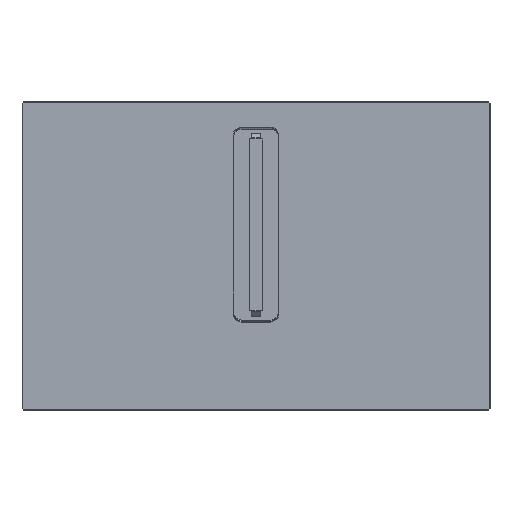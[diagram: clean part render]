
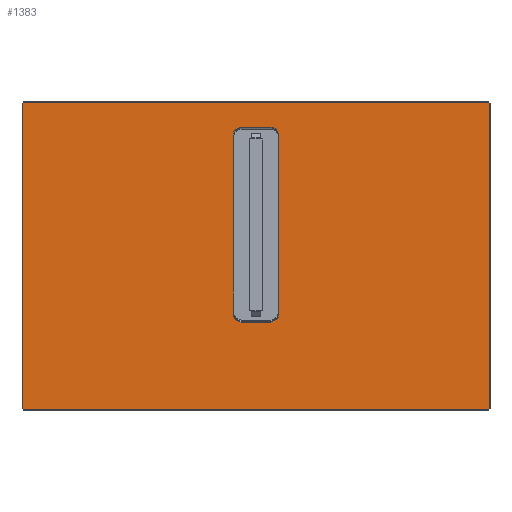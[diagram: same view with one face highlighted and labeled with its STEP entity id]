
A CAD part, top view. The second image highlights one B-rep face of the part: STEP entity #1383.
In plain terms, the highlighted planar face has unit normal (0, 0, 1).
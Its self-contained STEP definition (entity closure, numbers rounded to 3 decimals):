
#23=FACE_BOUND('',#2848,.T.);
#1383=ADVANCED_FACE('',(#2109,#23),#11263,.T.);
#2109=FACE_OUTER_BOUND('',#2847,.T.);
#2847=EDGE_LOOP('',(#5550,#5551,#5552,#5553,#5554,#5555,#5556,#5557));
#2848=EDGE_LOOP('',(#5558,#5559,#5560,#5561,#5562,#5563,#5564,#5565));
#5550=ORIENTED_EDGE('',*,*,#7875,.F.);
#5551=ORIENTED_EDGE('',*,*,#7877,.T.);
#5552=ORIENTED_EDGE('',*,*,#7871,.F.);
#5553=ORIENTED_EDGE('',*,*,#7878,.T.);
#5554=ORIENTED_EDGE('',*,*,#7862,.F.);
#5555=ORIENTED_EDGE('',*,*,#7879,.T.);
#5556=ORIENTED_EDGE('',*,*,#7868,.F.);
#5557=ORIENTED_EDGE('',*,*,#7880,.T.);
#5558=ORIENTED_EDGE('',*,*,#7888,.T.);
#5559=ORIENTED_EDGE('',*,*,#7881,.T.);
#5560=ORIENTED_EDGE('',*,*,#7882,.T.);
#5561=ORIENTED_EDGE('',*,*,#7883,.T.);
#5562=ORIENTED_EDGE('',*,*,#7884,.T.);
#5563=ORIENTED_EDGE('',*,*,#7885,.T.);
#5564=ORIENTED_EDGE('',*,*,#7886,.T.);
#5565=ORIENTED_EDGE('',*,*,#7887,.T.);
#7862=EDGE_CURVE('',#10649,#10650,#9392,.T.);
#7868=EDGE_CURVE('',#10656,#10657,#9396,.T.);
#7871=EDGE_CURVE('',#10653,#10659,#9398,.T.);
#7875=EDGE_CURVE('',#10663,#10661,#9401,.T.);
#7877=EDGE_CURVE('',#10663,#10659,#9403,.T.);
#7878=EDGE_CURVE('',#10653,#10650,#9404,.T.);
#7879=EDGE_CURVE('',#10649,#10657,#9405,.T.);
#7880=EDGE_CURVE('',#10656,#10661,#9406,.T.);
#7881=EDGE_CURVE('',#10664,#10665,#9407,.T.);
#7882=EDGE_CURVE('',#10665,#10666,#9408,.T.);
#7883=EDGE_CURVE('',#10666,#10667,#9409,.T.);
#7884=EDGE_CURVE('',#10667,#10668,#9410,.T.);
#7885=EDGE_CURVE('',#10668,#10669,#9411,.T.);
#7886=EDGE_CURVE('',#10669,#10670,#9412,.T.);
#7887=EDGE_CURVE('',#10670,#10671,#9413,.T.);
#7888=EDGE_CURVE('',#10671,#10664,#9414,.T.);
#9392=B_SPLINE_CURVE_WITH_KNOTS('',1,(#24583,#24584),.UNSPECIFIED.,.F.,
 .F.,(2,2),(0.,757.),.UNSPECIFIED.);
#9396=B_SPLINE_CURVE_WITH_KNOTS('',1,(#24605,#24606),.UNSPECIFIED.,.F.,
 .F.,(2,2),(0.,497.),.UNSPECIFIED.);
#9398=B_SPLINE_CURVE_WITH_KNOTS('',1,(#24614,#24615),.UNSPECIFIED.,.F.,
 .F.,(2,2),(0.,497.),.UNSPECIFIED.);
#9401=B_SPLINE_CURVE_WITH_KNOTS('',1,(#24633,#24634),.UNSPECIFIED.,.F.,
 .F.,(2,2),(0.,757.),.UNSPECIFIED.);
#9403=B_SPLINE_CURVE_WITH_KNOTS('',4,(#24637,#24638,#24639,#24640,#24641),
 .UNSPECIFIED.,.F.,.F.,(5,5),(0.,1.685),.UNSPECIFIED.);
#9404=B_SPLINE_CURVE_WITH_KNOTS('',4,(#24642,#24643,#24644,#24645,#24646),
 .UNSPECIFIED.,.F.,.F.,(5,5),(0.,1.685),.UNSPECIFIED.);
#9405=B_SPLINE_CURVE_WITH_KNOTS('',4,(#24647,#24648,#24649,#24650,#24651),
 .UNSPECIFIED.,.F.,.F.,(5,5),(0.,1.685),.UNSPECIFIED.);
#9406=B_SPLINE_CURVE_WITH_KNOTS('',4,(#24652,#24653,#24654,#24655,#24656),
 .UNSPECIFIED.,.F.,.F.,(5,5),(0.,1.685),.UNSPECIFIED.);
#9407=B_SPLINE_CURVE_WITH_KNOTS('',5,(#24657,#24658,#24659,#24660,#24661,
#24662,#24663,#24664,#24665,#24666,#24667,#24668),.UNSPECIFIED.,.F.,.F.,
(6,3,3,6),(0.,6.315,13.451,20.586),
 .UNSPECIFIED.);
#9408=B_SPLINE_CURVE_WITH_KNOTS('',1,(#24669,#24670),.UNSPECIFIED.,.F.,
 .F.,(2,2),(0.,291.),.UNSPECIFIED.);
#9409=B_SPLINE_CURVE_WITH_KNOTS('',5,(#24671,#24672,#24673,#24674,#24675,
#24676,#24677,#24678,#24679,#24680,#24681,#24682),.UNSPECIFIED.,.F.,.F.,
(6,3,3,6),(0.,6.315,13.451,20.586),
 .UNSPECIFIED.);
#9410=B_SPLINE_CURVE_WITH_KNOTS('',1,(#24683,#24684),.UNSPECIFIED.,.F.,
 .F.,(2,2),(0.,48.),.UNSPECIFIED.);
#9411=B_SPLINE_CURVE_WITH_KNOTS('',5,(#24685,#24686,#24687,#24688,#24689,
#24690,#24691,#24692,#24693,#24694,#24695,#24696),.UNSPECIFIED.,.F.,.F.,
(6,3,3,6),(0.,6.315,13.451,20.586),
 .UNSPECIFIED.);
#9412=B_SPLINE_CURVE_WITH_KNOTS('',1,(#24697,#24698),.UNSPECIFIED.,.F.,
 .F.,(2,2),(0.,291.),.UNSPECIFIED.);
#9413=B_SPLINE_CURVE_WITH_KNOTS('',5,(#24699,#24700,#24701,#24702,#24703,
#24704,#24705,#24706,#24707,#24708,#24709,#24710),.UNSPECIFIED.,.F.,.F.,
(6,3,3,6),(0.,6.315,13.451,20.586),
 .UNSPECIFIED.);
#9414=B_SPLINE_CURVE_WITH_KNOTS('',1,(#24711,#24712),.UNSPECIFIED.,.F.,
 .F.,(2,2),(0.,48.),.UNSPECIFIED.);
#10649=VERTEX_POINT('',#24547);
#10650=VERTEX_POINT('',#24548);
#10653=VERTEX_POINT('',#24551);
#10656=VERTEX_POINT('',#24554);
#10657=VERTEX_POINT('',#24555);
#10659=VERTEX_POINT('',#24557);
#10661=VERTEX_POINT('',#24559);
#10663=VERTEX_POINT('',#24561);
#10664=VERTEX_POINT('',#24562);
#10665=VERTEX_POINT('',#24563);
#10666=VERTEX_POINT('',#24564);
#10667=VERTEX_POINT('',#24565);
#10668=VERTEX_POINT('',#24566);
#10669=VERTEX_POINT('',#24567);
#10670=VERTEX_POINT('',#24568);
#10671=VERTEX_POINT('',#24569);
#11263=PLANE('',#11791);
#11791=AXIS2_PLACEMENT_3D('',#24216,#12344,$);
#12344=DIRECTION('',(0.,0.,1.));
#24216=CARTESIAN_POINT('',(-455.46,-299.46,4.));
#24547=CARTESIAN_POINT('',(378.5,-249.5,4.));
#24548=CARTESIAN_POINT('',(-378.5,-249.5,4.));
#24551=CARTESIAN_POINT('',(-379.5,-248.5,4.));
#24554=CARTESIAN_POINT('',(379.5,248.5,4.));
#24555=CARTESIAN_POINT('',(379.5,-248.5,4.));
#24557=CARTESIAN_POINT('',(-379.5,248.5,4.));
#24559=CARTESIAN_POINT('',(378.5,249.5,4.));
#24561=CARTESIAN_POINT('',(-378.5,249.5,4.));
#24562=CARTESIAN_POINT('',(24.,209.5,4.));
#24563=CARTESIAN_POINT('',(37.,196.5,4.));
#24564=CARTESIAN_POINT('',(37.,-94.5,4.));
#24565=CARTESIAN_POINT('',(24.,-107.5,4.));
#24566=CARTESIAN_POINT('',(-24.,-107.5,4.));
#24567=CARTESIAN_POINT('',(-37.,-94.5,4.));
#24568=CARTESIAN_POINT('',(-37.,196.5,4.));
#24569=CARTESIAN_POINT('',(-24.,209.5,4.));
#24583=CARTESIAN_POINT('',(378.5,-249.5,4.));
#24584=CARTESIAN_POINT('',(-378.5,-249.5,4.));
#24605=CARTESIAN_POINT('',(379.5,248.5,4.));
#24606=CARTESIAN_POINT('',(379.5,-248.5,4.));
#24614=CARTESIAN_POINT('',(-379.5,-248.5,4.));
#24615=CARTESIAN_POINT('',(-379.5,248.5,4.));
#24633=CARTESIAN_POINT('',(-378.5,249.5,4.));
#24634=CARTESIAN_POINT('',(378.5,249.5,4.));
#24637=CARTESIAN_POINT('',(-378.5,249.5,4.));
#24638=CARTESIAN_POINT('',(-378.893,249.5,4.));
#24639=CARTESIAN_POINT('',(-379.29,249.29,4.));
#24640=CARTESIAN_POINT('',(-379.5,248.893,4.));
#24641=CARTESIAN_POINT('',(-379.5,248.5,4.));
#24642=CARTESIAN_POINT('',(-379.5,-248.5,4.));
#24643=CARTESIAN_POINT('',(-379.5,-248.893,4.));
#24644=CARTESIAN_POINT('',(-379.29,-249.29,4.));
#24645=CARTESIAN_POINT('',(-378.893,-249.5,4.));
#24646=CARTESIAN_POINT('',(-378.5,-249.5,4.));
#24647=CARTESIAN_POINT('',(378.5,-249.5,4.));
#24648=CARTESIAN_POINT('',(378.893,-249.5,4.));
#24649=CARTESIAN_POINT('',(379.29,-249.29,4.));
#24650=CARTESIAN_POINT('',(379.5,-248.893,4.));
#24651=CARTESIAN_POINT('',(379.5,-248.5,4.));
#24652=CARTESIAN_POINT('',(379.5,248.5,4.));
#24653=CARTESIAN_POINT('',(379.5,248.893,4.));
#24654=CARTESIAN_POINT('',(379.29,249.29,4.));
#24655=CARTESIAN_POINT('',(378.893,249.5,4.));
#24656=CARTESIAN_POINT('',(378.5,249.5,4.));
#24657=CARTESIAN_POINT('',(24.,209.5,4.));
#24658=CARTESIAN_POINT('',(25.253,209.5,4.));
#24659=CARTESIAN_POINT('',(26.506,209.349,4.));
#24660=CARTESIAN_POINT('',(27.734,209.047,4.));
#24661=CARTESIAN_POINT('',(30.248,208.095,4.));
#24662=CARTESIAN_POINT('',(32.444,206.537,4.));
#24663=CARTESIAN_POINT('',(33.489,205.555,4.));
#24664=CARTESIAN_POINT('',(35.285,203.333,4.));
#24665=CARTESIAN_POINT('',(36.422,200.712,4.));
#24666=CARTESIAN_POINT('',(36.807,199.331,4.));
#24667=CARTESIAN_POINT('',(37.,197.915,4.));
#24668=CARTESIAN_POINT('',(37.,196.5,4.));
#24669=CARTESIAN_POINT('',(37.,196.5,4.));
#24670=CARTESIAN_POINT('',(37.,-94.5,4.));
#24671=CARTESIAN_POINT('',(37.,-94.5,4.));
#24672=CARTESIAN_POINT('',(37.,-95.753,4.));
#24673=CARTESIAN_POINT('',(36.849,-97.006,4.));
#24674=CARTESIAN_POINT('',(36.547,-98.234,4.));
#24675=CARTESIAN_POINT('',(35.595,-100.748,4.));
#24676=CARTESIAN_POINT('',(34.037,-102.944,4.));
#24677=CARTESIAN_POINT('',(33.055,-103.989,4.));
#24678=CARTESIAN_POINT('',(30.833,-105.785,4.));
#24679=CARTESIAN_POINT('',(28.212,-106.922,4.));
#24680=CARTESIAN_POINT('',(26.831,-107.307,4.));
#24681=CARTESIAN_POINT('',(25.415,-107.5,4.));
#24682=CARTESIAN_POINT('',(24.,-107.5,4.));
#24683=CARTESIAN_POINT('',(24.,-107.5,4.));
#24684=CARTESIAN_POINT('',(-24.,-107.5,4.));
#24685=CARTESIAN_POINT('',(-24.,-107.5,4.));
#24686=CARTESIAN_POINT('',(-25.253,-107.5,4.));
#24687=CARTESIAN_POINT('',(-26.506,-107.349,4.));
#24688=CARTESIAN_POINT('',(-27.734,-107.047,4.));
#24689=CARTESIAN_POINT('',(-30.248,-106.095,4.));
#24690=CARTESIAN_POINT('',(-32.444,-104.537,4.));
#24691=CARTESIAN_POINT('',(-33.489,-103.555,4.));
#24692=CARTESIAN_POINT('',(-35.285,-101.333,4.));
#24693=CARTESIAN_POINT('',(-36.422,-98.712,4.));
#24694=CARTESIAN_POINT('',(-36.807,-97.331,4.));
#24695=CARTESIAN_POINT('',(-37.,-95.915,4.));
#24696=CARTESIAN_POINT('',(-37.,-94.5,4.));
#24697=CARTESIAN_POINT('',(-37.,-94.5,4.));
#24698=CARTESIAN_POINT('',(-37.,196.5,4.));
#24699=CARTESIAN_POINT('',(-37.,196.5,4.));
#24700=CARTESIAN_POINT('',(-37.,197.753,4.));
#24701=CARTESIAN_POINT('',(-36.849,199.006,4.));
#24702=CARTESIAN_POINT('',(-36.547,200.234,4.));
#24703=CARTESIAN_POINT('',(-35.595,202.748,4.));
#24704=CARTESIAN_POINT('',(-34.037,204.944,4.));
#24705=CARTESIAN_POINT('',(-33.055,205.989,4.));
#24706=CARTESIAN_POINT('',(-30.833,207.785,4.));
#24707=CARTESIAN_POINT('',(-28.212,208.922,4.));
#24708=CARTESIAN_POINT('',(-26.831,209.307,4.));
#24709=CARTESIAN_POINT('',(-25.415,209.5,4.));
#24710=CARTESIAN_POINT('',(-24.,209.5,4.));
#24711=CARTESIAN_POINT('',(-24.,209.5,4.));
#24712=CARTESIAN_POINT('',(24.,209.5,4.));
